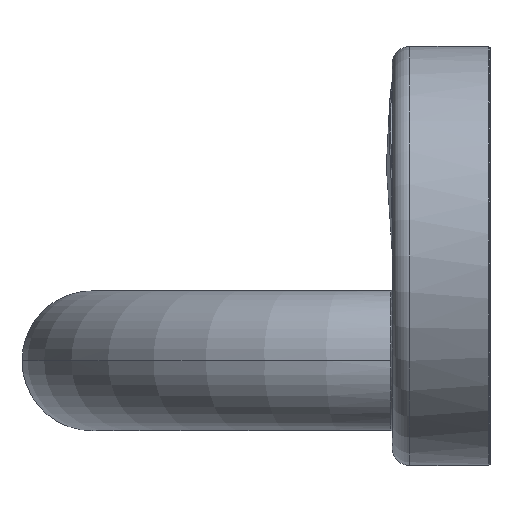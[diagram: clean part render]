
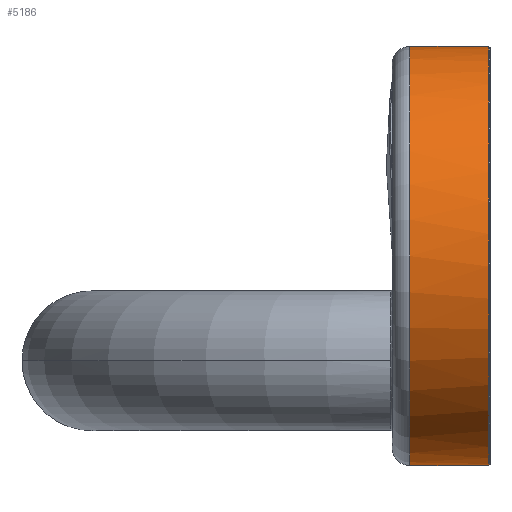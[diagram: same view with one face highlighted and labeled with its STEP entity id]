
A CAD part, left-side view. The second image highlights one B-rep face of the part: STEP entity #5186.
In plain terms, the highlighted cylindrical face has radius 30 mm (diameter 60 mm), a partial arc.
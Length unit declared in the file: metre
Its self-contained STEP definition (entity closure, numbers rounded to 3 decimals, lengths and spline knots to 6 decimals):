
#32=VERTEX_POINT('',#33);
#33=CARTESIAN_POINT('',(-0.34,-0.0138,-0.015));
#40=VERTEX_POINT('',#41);
#41=CARTESIAN_POINT('',(-0.34,-0.0138,0.045));
#96=CYLINDRICAL_SURFACE('',#97,0.03);
#97=AXIS2_PLACEMENT_3D('',#98,#99,#100);
#98=CARTESIAN_POINT('',(-0.34,0.0,0.015));
#99=DIRECTION('',(0.0,1.0,0.0));
#100=DIRECTION('',(0.0,0.0,1.0));
#105=EDGE_CURVE('',#32,#106,#108,.T.);
#106=VERTEX_POINT('',#107);
#107=CARTESIAN_POINT('',(-0.34,-0.0025,-0.015));
#108=LINE('',#109,#110);
#109=CARTESIAN_POINT('',(-0.34,0.0,-0.015));
#110=VECTOR('',#111,1.0);
#111=DIRECTION('',(0.0,1.0,0.0));
#114=VERTEX_POINT('',#115);
#115=CARTESIAN_POINT('',(-0.34,-0.0025,0.045));
#122=EDGE_CURVE('',#40,#114,#123,.T.);
#123=LINE('',#124,#125);
#124=CARTESIAN_POINT('',(-0.34,-0.014,0.045));
#125=VECTOR('',#126,1.0);
#126=DIRECTION('',(0.0,1.0,0.0));
#4845=EDGE_CURVE('',#114,#106,#4846,.T.);
#4846=CIRCLE('',#4847,0.03);
#4847=AXIS2_PLACEMENT_3D('',#4848,#4849,#4850);
#4848=CARTESIAN_POINT('',(-0.34,-0.0025,0.015));
#4849=DIRECTION('',(0.0,-1.0,0.0));
#4850=DIRECTION('',(0.0,0.0,1.0));
#5184=FACE_OUTER_BOUND('',#5187,.T.);
#5186=ADVANCED_FACE('',(#5184),#96,.T.);
#5187=EDGE_LOOP('',(#5188,#5189,#5196,#5197));
#5188=ORIENTED_EDGE('',*,*,#105,.F.);
#5189=ORIENTED_EDGE('',*,*,#5191,.T.);
#5190=CARTESIAN_POINT('',(-0.34,-0.0138,-0.015));
#5191=EDGE_CURVE('',#32,#40,#5192,.T.);
#5192=(B_SPLINE_CURVE(3,(#5190,#5193,#5194,#5195),.UNSPECIFIED.,.F.,.U.)B_SPLINE_CURVE_WITH_KNOTS(
  (4,4),(0.0,1.0),.UNSPECIFIED.)BOUNDED_CURVE()CURVE()GEOMETRIC_REPRESENTATION_ITEM(
  )RATIONAL_B_SPLINE_CURVE((1.0,0.333,0.333,1.0)
  )REPRESENTATION_ITEM(''));
#5193=CARTESIAN_POINT('',(-0.4,-0.0138,-0.015));
#5194=CARTESIAN_POINT('',(-0.4,-0.0138,0.045));
#5195=CARTESIAN_POINT('',(-0.34,-0.0138,0.045));
#5196=ORIENTED_EDGE('',*,*,#122,.T.);
#5197=ORIENTED_EDGE('',*,*,#4845,.T.);
